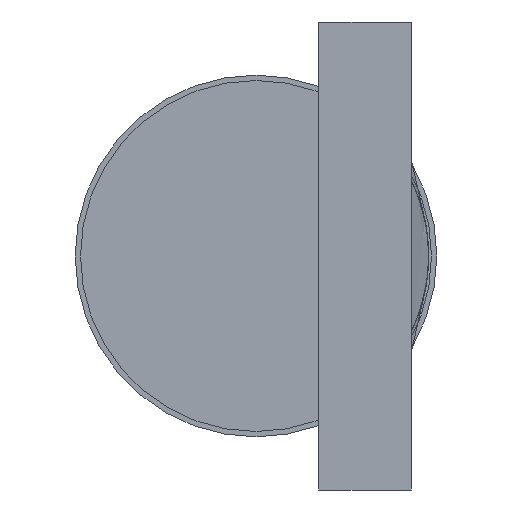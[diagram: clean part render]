
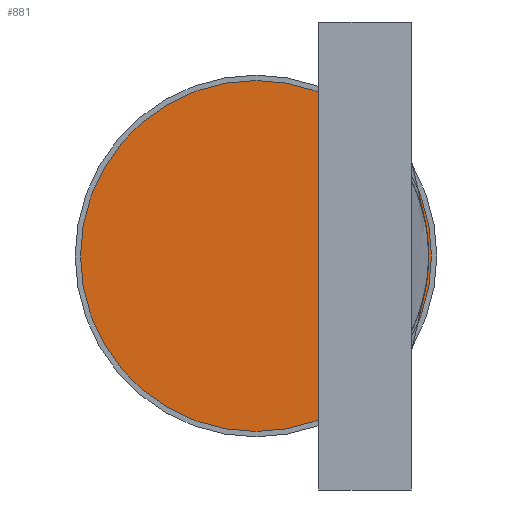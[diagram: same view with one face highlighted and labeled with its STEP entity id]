
A CAD part, left-side view. The second image highlights one B-rep face of the part: STEP entity #881.
In plain terms, the highlighted planar face has unit normal (-1, 0, 0).
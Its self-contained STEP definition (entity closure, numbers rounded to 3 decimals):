
#62=LINE('',#4511,#129);
#129=VECTOR('',#1106,10.);
#182=FACE_BOUND('',#292,.T.);
#236=FACE_OUTER_BOUND('',#291,.T.);
#291=EDGE_LOOP('',(#697));
#292=EDGE_LOOP('',(#698,#699));
#325=CIRCLE('',#941,4.191);
#326=CIRCLE('',#943,4.128);
#371=VERTEX_POINT('',#4354);
#372=VERTEX_POINT('',#4358);
#373=VERTEX_POINT('',#4359);
#465=EDGE_CURVE('',#371,#371,#325,.T.);
#466=EDGE_CURVE('',#372,#373,#326,.T.);
#505=EDGE_CURVE('',#373,#372,#62,.T.);
#697=ORIENTED_EDGE('',*,*,#465,.T.);
#698=ORIENTED_EDGE('',*,*,#505,.F.);
#699=ORIENTED_EDGE('',*,*,#466,.F.);
#797=PLANE('',#962);
#881=ADVANCED_FACE('',(#236,#182),#797,.T.);
#941=AXIS2_PLACEMENT_3D('',#4356,#1035,#1036);
#943=AXIS2_PLACEMENT_3D('',#4360,#1039,#1040);
#962=AXIS2_PLACEMENT_3D('',#4512,#1107,#1108);
#1035=DIRECTION('center_axis',(-1.,0.,0.));
#1036=DIRECTION('ref_axis',(0.,0.,
1.));
#1039=DIRECTION('center_axis',(-1.,0.,0.));
#1040=DIRECTION('ref_axis',(0.,-1.,0.));
#1106=DIRECTION('',(0.,0.,-1.));
#1107=DIRECTION('center_axis',(-1.,0.,0.));
#1108=DIRECTION('ref_axis',(0.,0.,1.));
#4354=CARTESIAN_POINT('',(-439.776,0.,-4.191));
#4356=CARTESIAN_POINT('Origin',(-439.776,0.,0.));
#4358=CARTESIAN_POINT('',(-439.776,-1.5,-3.845));
#4359=CARTESIAN_POINT('',(-439.776,-1.5,3.845));
#4360=CARTESIAN_POINT('Origin',(-439.776,0.,0.));
#4511=CARTESIAN_POINT('',(-439.776,-1.5,1.923));
#4512=CARTESIAN_POINT('Origin',(-439.776,0.,0.));
